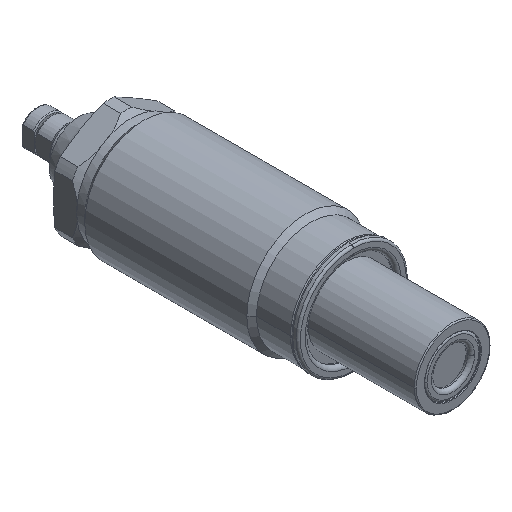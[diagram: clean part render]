
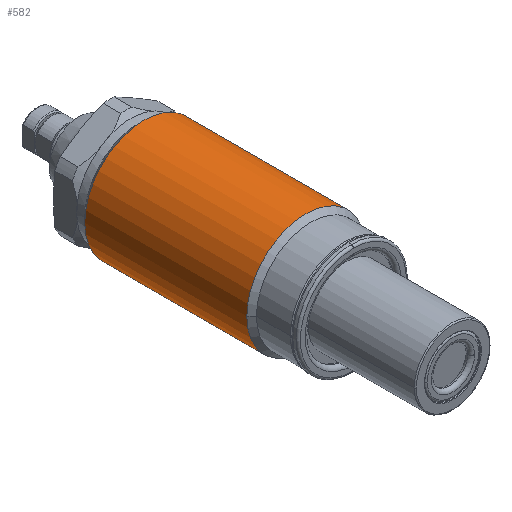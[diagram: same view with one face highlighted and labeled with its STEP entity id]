
A CAD part, isometric view. The second image highlights one B-rep face of the part: STEP entity #582.
In plain terms, the highlighted cylindrical face has radius 11 mm (diameter 22 mm), a full revolution.
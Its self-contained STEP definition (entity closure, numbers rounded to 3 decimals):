
#271=FACE_BOUND('',#897,.T.);
#272=FACE_BOUND('',#898,.T.);
#320=CYLINDRICAL_SURFACE('',#2487,11.);
#387=LINE('',#4043,#464);
#388=LINE('',#4048,#465);
#464=VECTOR('',#3130,1.);
#465=VECTOR('',#3133,1.);
#582=ADVANCED_FACE('',(#271,#272),#320,.T.);
#897=EDGE_LOOP('',(#1371));
#898=EDGE_LOOP('',(#1372,#1373,#1374,#1375,#1376,#1377));
#1371=ORIENTED_EDGE('',*,*,#1977,.T.);
#1372=ORIENTED_EDGE('',*,*,#1978,.F.);
#1373=ORIENTED_EDGE('',*,*,#1978,.T.);
#1374=ORIENTED_EDGE('',*,*,#1979,.F.);
#1375=ORIENTED_EDGE('',*,*,#1980,.F.);
#1376=ORIENTED_EDGE('',*,*,#1980,.T.);
#1377=ORIENTED_EDGE('',*,*,#1981,.F.);
#1712=VERTEX_POINT('',#4042);
#1713=VERTEX_POINT('',#4044);
#1714=VERTEX_POINT('',#4045);
#1715=VERTEX_POINT('',#4047);
#1716=VERTEX_POINT('',#4049);
#1977=EDGE_CURVE('',#1712,#1712,#2193,.T.);
#1978=EDGE_CURVE('',#1713,#1714,#387,.T.);
#1979=EDGE_CURVE('',#1715,#1714,#2194,.T.);
#1980=EDGE_CURVE('',#1716,#1715,#388,.T.);
#1981=EDGE_CURVE('',#1714,#1715,#2195,.T.);
#2193=CIRCLE('',#2484,11.);
#2194=CIRCLE('',#2485,11.);
#2195=CIRCLE('',#2486,11.);
#2484=AXIS2_PLACEMENT_3D('',#4041,#3128,#3129);
#2485=AXIS2_PLACEMENT_3D('',#4046,#3131,#3132);
#2486=AXIS2_PLACEMENT_3D('',#4050,#3134,#3135);
#2487=AXIS2_PLACEMENT_3D('',#4051,#3136,#3137);
#3128=DIRECTION('',(0.,-1.,0.));
#3129=DIRECTION('',(1.,0.,0.));
#3130=DIRECTION('',(0.,-1.,0.));
#3131=DIRECTION('',(0.,-1.,0.));
#3132=DIRECTION('',(-1.,0.,0.));
#3133=DIRECTION('',(0.,-1.,0.));
#3134=DIRECTION('',(0.,-1.,0.));
#3135=DIRECTION('',(-1.,0.,0.));
#3136=DIRECTION('',(0.,-1.,0.));
#3137=DIRECTION('',(1.,0.,0.));
#4041=CARTESIAN_POINT('',(0.,56.1,0.));
#4042=CARTESIAN_POINT('',(11.,56.1,0.));
#4043=CARTESIAN_POINT('',(11.,0.,0.));
#4044=CARTESIAN_POINT('',(11.,54.766,0.));
#4045=CARTESIAN_POINT('',(11.,26.,0.));
#4046=CARTESIAN_POINT('',(0.,26.,0.));
#4047=CARTESIAN_POINT('',(-11.,26.,0.));
#4048=CARTESIAN_POINT('',(-11.,0.,0.));
#4049=CARTESIAN_POINT('',(-11.,54.766,0.));
#4050=CARTESIAN_POINT('',(0.,26.,0.));
#4051=CARTESIAN_POINT('',(0.,0.,0.));
